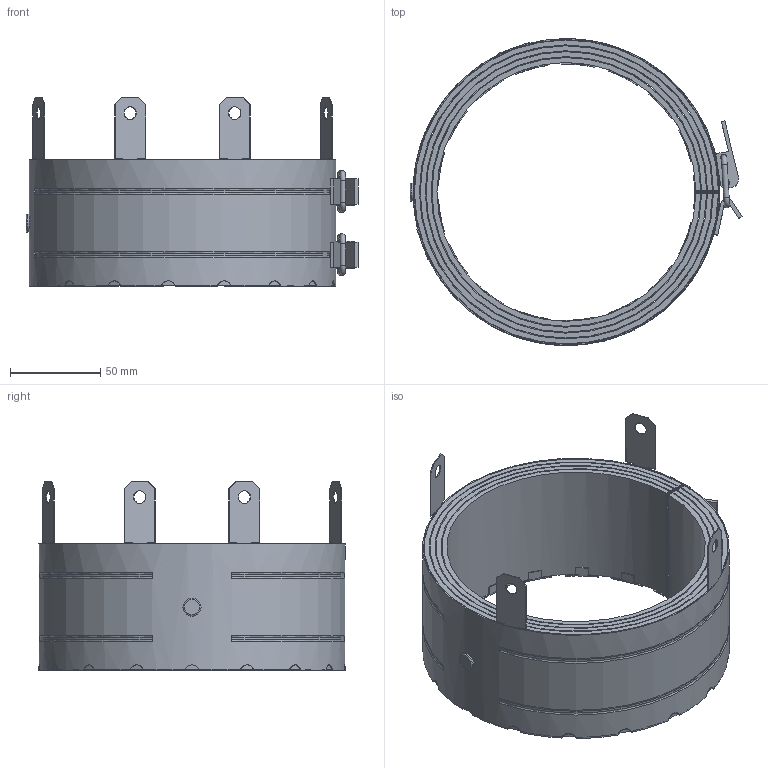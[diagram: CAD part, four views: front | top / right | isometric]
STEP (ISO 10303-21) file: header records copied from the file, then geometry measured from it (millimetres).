
FILE_DESCRIPTION(/* description */ (''),/* implementation_level */ '2;1');
FILE_NAME(/* name */ 'H:\Geberit-Teile\Export\RS90 plus\stp\348334.stp',/* time_stamp */ '2017-03-24T12:30:19+01:00',/* author */ ('seihe2'),/* organization */ (''),/* preprocessor_version */ 'ST-DEVELOPER v15.2',/* originating_system */ 'Autodesk Inventor 2014',/* authorisation */ '');
FILE_SCHEMA (('AUTOMOTIVE_DESIGN { 1 0 10303 214 3 1 1 }'));
Length unit declared in the file: millimetre
Products named in the file (1): 348334
Bounding box: 184.02 x 169.93 x 104.5 mm (x, y, z)
Volume: 401674.4 mm3; surface area: 377811.1 mm2
Topology: 4 solids, 4 shells, 475 faces, 1492 edges, 893 vertices
Faces by surface type: plane 356, cylinder 102, torus 17
Full cylindrical faces by diameter (mm): 3 x6, 3.5 x4, 4 x6, 7 x4, 10 x1
Entity records: 17709 total; most frequent: CARTESIAN_POINT 3729, ORIENTED_EDGE 2920, DIRECTION 2867, EDGE_CURVE 1453, AXIS2_PLACEMENT_3D 1026, VERTEX_POINT 884, LINE 815, VECTOR 815
